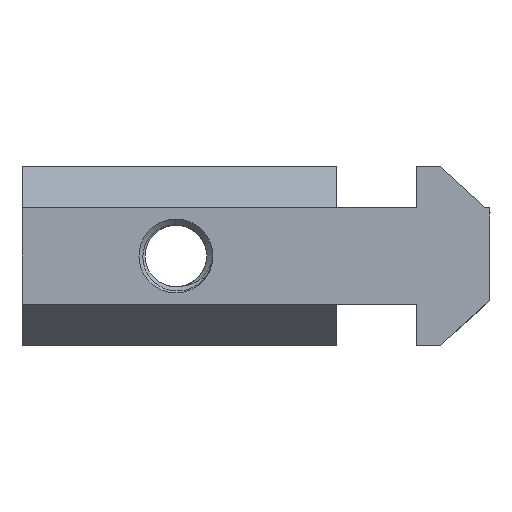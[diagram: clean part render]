
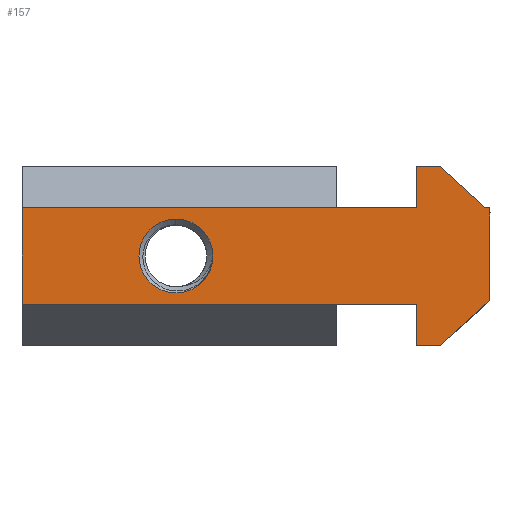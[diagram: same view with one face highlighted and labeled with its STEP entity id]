
A CAD part, left-side view. The second image highlights one B-rep face of the part: STEP entity #157.
In plain terms, the highlighted planar face has unit normal (-1, 0, 0).
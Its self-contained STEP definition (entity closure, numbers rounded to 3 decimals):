
#12 = CARTESIAN_POINT ( 'NONE',  ( 0., 6., 3.9 ) ) ;
#68 = LINE ( 'NONE', #4294, #1836 ) ;
#85 = ORIENTED_EDGE ( 'NONE', *, *, #2431, .T. ) ;
#110 = VERTEX_POINT ( 'NONE', #1949 ) ;
#150 = DIRECTION ( 'NONE',  ( 0., 1., 0. ) ) ;
#157 = ADVANCED_FACE ( 'NONE', ( #1993, #2868 ), #3163, .F. ) ;
#163 = VERTEX_POINT ( 'NONE', #4470 ) ;
#176 = ORIENTED_EDGE ( 'NONE', *, *, #2909, .F. ) ;
#220 = ORIENTED_EDGE ( 'NONE', *, *, #3561, .F. ) ;
#230 = DIRECTION ( 'NONE',  ( 0., 0., -1. ) ) ;
#246 = CARTESIAN_POINT ( 'NONE',  ( 0., 0., -3.9 ) ) ;
#248 = DIRECTION ( 'NONE',  ( 0., 0., -1. ) ) ;
#284 = EDGE_CURVE ( 'NONE', #1158, #333, #1130, .T. ) ;
#317 = ORIENTED_EDGE ( 'NONE', *, *, #1241, .T. ) ;
#324 = DIRECTION ( 'NONE',  ( 0., 0., -1. ) ) ;
#333 = VERTEX_POINT ( 'NONE', #3320 ) ;
#346 = VECTOR ( 'NONE', #4468, 1000. ) ;
#351 = VERTEX_POINT ( 'NONE', #1395 ) ;
#362 = EDGE_CURVE ( 'NONE', #1158, #1917, #1881, .T. ) ;
#404 = DIRECTION ( 'NONE',  ( 0., -1., 0. ) ) ;
#462 = DIRECTION ( 'NONE',  ( 0., 0., -1. ) ) ;
#475 = VECTOR ( 'NONE', #3017, 1000. ) ;
#572 = EDGE_CURVE ( 'NONE', #110, #1917, #1212, .T. ) ;
#641 = CARTESIAN_POINT ( 'NONE',  ( 0., -0.001, 3.9 ) ) ;
#715 = CARTESIAN_POINT ( 'NONE',  ( 0., 6., 7.25 ) ) ;
#733 = LINE ( 'NONE', #246, #346 ) ;
#735 = DIRECTION ( 'NONE',  ( 1., 0., 0. ) ) ;
#767 = ORIENTED_EDGE ( 'NONE', *, *, #938, .T. ) ;
#814 = DIRECTION ( 'NONE',  ( 1., 0., 0. ) ) ;
#820 = AXIS2_PLACEMENT_3D ( 'NONE', #4546, #2657, #2180 ) ;
#850 = EDGE_CURVE ( 'NONE', #3569, #3584, #2021, .T. ) ;
#903 = CARTESIAN_POINT ( 'NONE',  ( 0., 0., 3.9 ) ) ;
#938 = EDGE_CURVE ( 'NONE', #3250, #2059, #733, .T. ) ;
#966 = CARTESIAN_POINT ( 'NONE',  ( 0., 38., 3.9 ) ) ;
#1042 = DIRECTION ( 'NONE',  ( 0., 0.739, 0.674 ) ) ;
#1078 = EDGE_CURVE ( 'NONE', #2467, #2059, #2719, .T. ) ;
#1127 = CARTESIAN_POINT ( 'NONE',  ( 0., 0.329, 3.9 ) ) ;
#1130 = LINE ( 'NONE', #641, #4422 ) ;
#1158 = VERTEX_POINT ( 'NONE', #4407 ) ;
#1192 = AXIS2_PLACEMENT_3D ( 'NONE', #2769, #814, #324 ) ;
#1212 = LINE ( 'NONE', #715, #1647 ) ;
#1233 = CARTESIAN_POINT ( 'NONE',  ( 0., 0., 3.9 ) ) ;
#1241 = EDGE_CURVE ( 'NONE', #2081, #1501, #4421, .T. ) ;
#1259 = DIRECTION ( 'NONE',  ( 0., 0., 1. ) ) ;
#1312 = EDGE_CURVE ( 'NONE', #333, #3420, #1447, .T. ) ;
#1323 = ORIENTED_EDGE ( 'NONE', *, *, #572, .T. ) ;
#1395 = CARTESIAN_POINT ( 'NONE',  ( 0., 22.5, 0. ) ) ;
#1447 = LINE ( 'NONE', #966, #4656 ) ;
#1476 = CARTESIAN_POINT ( 'NONE',  ( 0., 0., 3.9 ) ) ;
#1492 = VECTOR ( 'NONE', #404, 1000. ) ;
#1501 = VERTEX_POINT ( 'NONE', #4595 ) ;
#1507 = DIRECTION ( 'NONE',  ( 0., 0., -1. ) ) ;
#1522 = CARTESIAN_POINT ( 'NONE',  ( 0., 4., 7.25 ) ) ;
#1551 = CIRCLE ( 'NONE', #820, 3. ) ;
#1587 = VECTOR ( 'NONE', #2796, 1000. ) ;
#1618 = DIRECTION ( 'NONE',  ( 0., 0.739, -0.674 ) ) ;
#1647 = VECTOR ( 'NONE', #230, 1000. ) ;
#1742 = EDGE_CURVE ( 'NONE', #110, #3584, #2908, .T. ) ;
#1746 = CARTESIAN_POINT ( 'NONE',  ( 0., 6., -7.25 ) ) ;
#1767 = CARTESIAN_POINT ( 'NONE',  ( 0., 6., -3.9 ) ) ;
#1836 = VECTOR ( 'NONE', #3828, 1000. ) ;
#1881 = LINE ( 'NONE', #903, #1492 ) ;
#1895 = EDGE_LOOP ( 'NONE', ( #2150, #317, #85 ) ) ;
#1909 = VERTEX_POINT ( 'NONE', #1476 ) ;
#1917 = VERTEX_POINT ( 'NONE', #12 ) ;
#1943 = DIRECTION ( 'NONE',  ( 0., -1., 0. ) ) ;
#1949 = CARTESIAN_POINT ( 'NONE',  ( 0., 6., 7.25 ) ) ;
#1950 = CIRCLE ( 'NONE', #3141, 3. ) ;
#1993 = FACE_BOUND ( 'NONE', #1895, .T. ) ;
#2007 = DIRECTION ( 'NONE',  ( 1., 0., 0. ) ) ;
#2021 = LINE ( 'NONE', #1522, #3675 ) ;
#2059 = VERTEX_POINT ( 'NONE', #1767 ) ;
#2081 = VERTEX_POINT ( 'NONE', #4044 ) ;
#2104 = EDGE_CURVE ( 'NONE', #3569, #1909, #68, .T. ) ;
#2119 = CARTESIAN_POINT ( 'NONE',  ( 0., 4., -7.25 ) ) ;
#2150 = ORIENTED_EDGE ( 'NONE', *, *, #2165, .T. ) ;
#2165 = EDGE_CURVE ( 'NONE', #351, #2081, #1551, .T. ) ;
#2180 = DIRECTION ( 'NONE',  ( 0., 0., -1. ) ) ;
#2225 = ORIENTED_EDGE ( 'NONE', *, *, #3635, .F. ) ;
#2407 = ORIENTED_EDGE ( 'NONE', *, *, #2104, .F. ) ;
#2431 = EDGE_CURVE ( 'NONE', #1501, #351, #1950, .T. ) ;
#2444 = CARTESIAN_POINT ( 'NONE',  ( 0., 0., 7.25 ) ) ;
#2467 = VERTEX_POINT ( 'NONE', #2879 ) ;
#2595 = EDGE_CURVE ( 'NONE', #2467, #163, #3966, .T. ) ;
#2600 = LINE ( 'NONE', #2119, #3409 ) ;
#2657 = DIRECTION ( 'NONE',  ( 1., 0., 0. ) ) ;
#2712 = CARTESIAN_POINT ( 'NONE',  ( 0., 0., -3.6 ) ) ;
#2719 = LINE ( 'NONE', #1746, #3343 ) ;
#2769 = CARTESIAN_POINT ( 'NONE',  ( 0., 25.5, 0. ) ) ;
#2796 = DIRECTION ( 'NONE',  ( 0., 1., 0. ) ) ;
#2868 = FACE_OUTER_BOUND ( 'NONE', #4668, .T. ) ;
#2875 = ORIENTED_EDGE ( 'NONE', *, *, #1078, .F. ) ;
#2879 = CARTESIAN_POINT ( 'NONE',  ( 0., 6., -7.25 ) ) ;
#2908 = LINE ( 'NONE', #2444, #3930 ) ;
#2909 = EDGE_CURVE ( 'NONE', #3250, #3420, #3744, .T. ) ;
#2964 = CARTESIAN_POINT ( 'NONE',  ( 0., 25.5, 0. ) ) ;
#3017 = DIRECTION ( 'NONE',  ( 0., -1., 0. ) ) ;
#3094 = ORIENTED_EDGE ( 'NONE', *, *, #1742, .F. ) ;
#3135 = ORIENTED_EDGE ( 'NONE', *, *, #362, .F. ) ;
#3141 = AXIS2_PLACEMENT_3D ( 'NONE', #2964, #2007, #1507 ) ;
#3163 = PLANE ( 'NONE',  #4686 ) ;
#3178 = CARTESIAN_POINT ( 'NONE',  ( 0., 38., -3.9 ) ) ;
#3250 = VERTEX_POINT ( 'NONE', #4344 ) ;
#3265 = CARTESIAN_POINT ( 'NONE',  ( 0., -0.001, -3.9 ) ) ;
#3316 = DIRECTION ( 'NONE',  ( 0., 0., -1. ) ) ;
#3320 = CARTESIAN_POINT ( 'NONE',  ( 0., 38., 3.9 ) ) ;
#3343 = VECTOR ( 'NONE', #1259, 1000. ) ;
#3366 = VERTEX_POINT ( 'NONE', #2712 ) ;
#3409 = VECTOR ( 'NONE', #1618, 1000. ) ;
#3420 = VERTEX_POINT ( 'NONE', #3178 ) ;
#3488 = CARTESIAN_POINT ( 'NONE',  ( 0., 0., -7.25 ) ) ;
#3561 = EDGE_CURVE ( 'NONE', #3366, #163, #2600, .T. ) ;
#3569 = VERTEX_POINT ( 'NONE', #1127 ) ;
#3584 = VERTEX_POINT ( 'NONE', #4371 ) ;
#3635 = EDGE_CURVE ( 'NONE', #1909, #3366, #4260, .T. ) ;
#3675 = VECTOR ( 'NONE', #1042, 1000. ) ;
#3744 = LINE ( 'NONE', #3265, #1587 ) ;
#3797 = CARTESIAN_POINT ( 'NONE',  ( 0., 0., 3.9 ) ) ;
#3814 = ORIENTED_EDGE ( 'NONE', *, *, #850, .T. ) ;
#3828 = DIRECTION ( 'NONE',  ( 0., -1., 0. ) ) ;
#3930 = VECTOR ( 'NONE', #1943, 1000. ) ;
#3966 = LINE ( 'NONE', #3488, #475 ) ;
#4044 = CARTESIAN_POINT ( 'NONE',  ( 0., 25.5, -3. ) ) ;
#4124 = VECTOR ( 'NONE', #3316, 1000. ) ;
#4260 = LINE ( 'NONE', #3797, #4124 ) ;
#4294 = CARTESIAN_POINT ( 'NONE',  ( 0., 0., 3.9 ) ) ;
#4299 = ORIENTED_EDGE ( 'NONE', *, *, #2595, .T. ) ;
#4336 = ORIENTED_EDGE ( 'NONE', *, *, #1312, .T. ) ;
#4344 = CARTESIAN_POINT ( 'NONE',  ( 0., 12.5, -3.9 ) ) ;
#4371 = CARTESIAN_POINT ( 'NONE',  ( 0., 4., 7.25 ) ) ;
#4407 = CARTESIAN_POINT ( 'NONE',  ( 0., 12.5, 3.9 ) ) ;
#4421 = CIRCLE ( 'NONE', #1192, 3. ) ;
#4422 = VECTOR ( 'NONE', #150, 1000. ) ;
#4468 = DIRECTION ( 'NONE',  ( 0., -1., 0. ) ) ;
#4470 = CARTESIAN_POINT ( 'NONE',  ( 0., 4., -7.25 ) ) ;
#4488 = ORIENTED_EDGE ( 'NONE', *, *, #284, .T. ) ;
#4546 = CARTESIAN_POINT ( 'NONE',  ( 0., 25.5, 0. ) ) ;
#4595 = CARTESIAN_POINT ( 'NONE',  ( 0., 25.5, 3. ) ) ;
#4656 = VECTOR ( 'NONE', #462, 1000. ) ;
#4668 = EDGE_LOOP ( 'NONE', ( #4299, #220, #2225, #2407, #3814, #3094, #1323, #3135, #4488, #4336, #176, #767, #2875 ) ) ;
#4686 = AXIS2_PLACEMENT_3D ( 'NONE', #1233, #735, #248 ) ;
